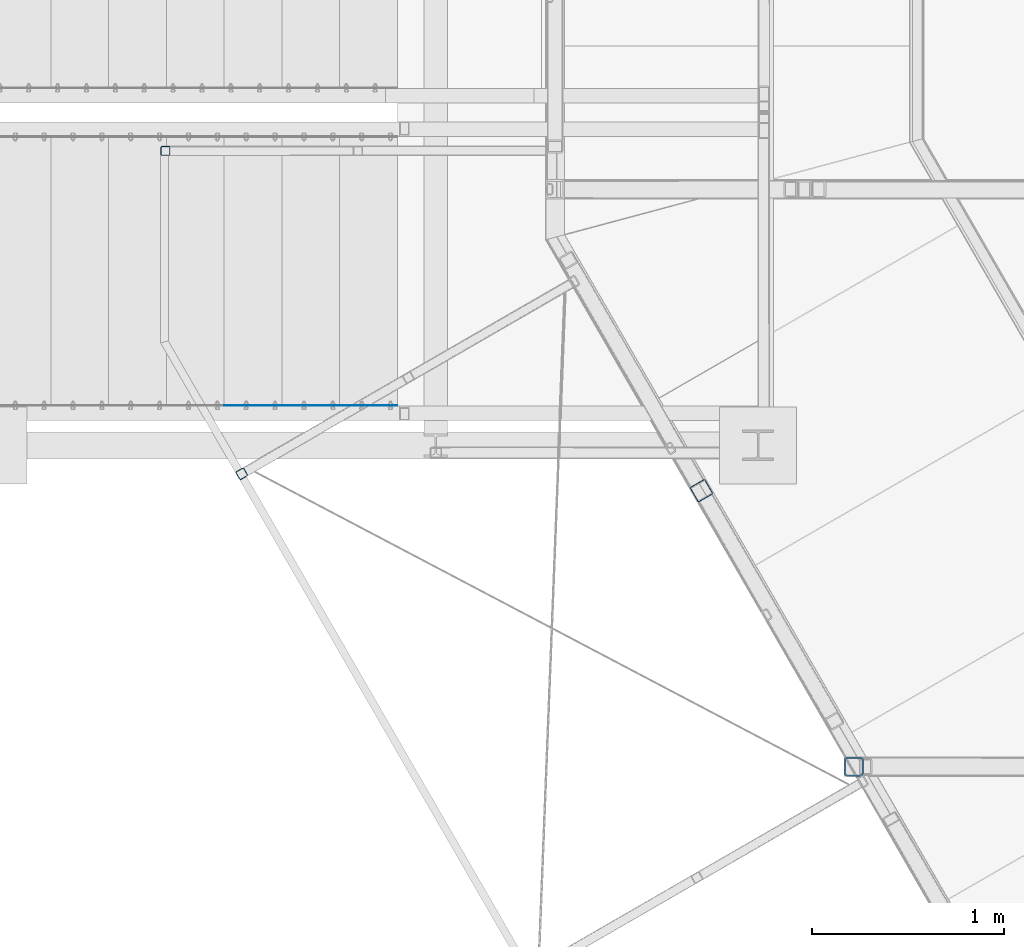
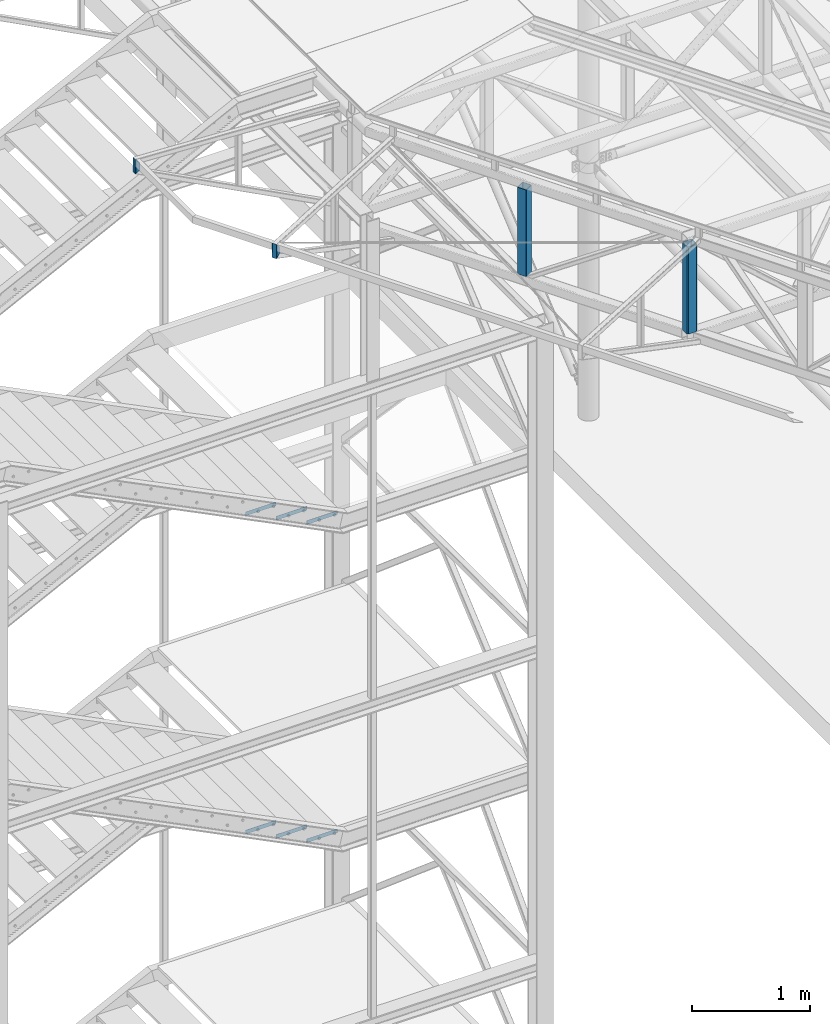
# One storey, part 66 of 132: 10 discrete accessories, 10 elements without a shape of their own.
"""IFC2X3 building model written with IfcOpenShell, lengths in millimetres."""

from ifc_helpers import new_model, si_unit, frame, origin_with_axes, origin_2d_with_axis, place, context, subcontext, project, spatial, rectangle, hollow_rectangle, extrude, clip, halfspace, material, type_object, element, aggregate, save


model = new_model("IFC2X3")

# Units and contexts
model_context = context("Model", 3, precision=1e-05, world=origin_with_axes())
body_context = subcontext(model_context, "Body", "Model", "MODEL_VIEW")
ifc_project = project(units=[si_unit("LENGTHUNIT", "METRE", prefix="MILLI"), si_unit("AREAUNIT", "SQUARE_METRE"), si_unit("VOLUMEUNIT", "CUBIC_METRE"), si_unit("MASSUNIT", "GRAM", prefix="KILO"), si_unit("TIMEUNIT", "SECOND"), si_unit("PLANEANGLEUNIT", "RADIAN"), si_unit("SOLIDANGLEUNIT", "STERADIAN"), si_unit("THERMODYNAMICTEMPERATUREUNIT", "DEGREE_CELSIUS"), si_unit("LUMINOUSINTENSITYUNIT", "LUMEN")], contexts=[model_context])

# Site, building, storey
site_placement = place(None, origin_with_axes())
site = spatial("IfcSite", under=ifc_project, at=site_placement, Name="Budowa", CompositionType="ELEMENT")
building_placement = place(site_placement, origin_with_axes())
building = spatial("IfcBuilding", under=site, at=building_placement, Name="Undefined", CompositionType="ELEMENT")
storey_placement = place(building_placement, origin_with_axes())
storey = spatial("IfcBuildingStorey", under=building, at=storey_placement, Name="Undefined", CompositionType="ELEMENT", Elevation=0.0)

# Assembly, discrete accessory
assembly_1_placement = place(storey_placement, origin_with_axes())
assembly_1 = element("IfcElementAssembly", 1, at=assembly_1_placement, inside=storey, Name="Steel Assembly", AssemblyPlace="NOTDEFINED", PredefinedType="RIGID_FRAME")
ifc_material_1 = material(Name="STEEL/S235")
discrete_accessory_type_1 = type_object("IfcDiscreteAccessoryType", Name="BEAM")
discrete_accessory_1_placement = place(assembly_1_placement, frame((-2025.0003815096, 9200.00000004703, 13979.9998397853), z_axis=(0.0, 1.0, 0.0), x_axis=(0.0, 0.0, -1.0)))
discrete_accessory_1 = element("IfcDiscreteAccessory", 2, at=discrete_accessory_1_placement, type_object=discrete_accessory_type_1, material=ifc_material_1, Name="BEAM", ObjectType="SHS50*4", context=body_context, shape_type="Clipping", body=[
    clip(clip(extrude(hollow_rectangle(XDim=50.0, YDim=50.0, WallThickness=4.0, InnerFilletRadius=4.0, OuterFilletRadius=8.0, at=origin_2d_with_axis()), frame((176.695154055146, 0.0, 0.0), z_axis=(-1.0, 0.0, 0.0), x_axis=(0.0, -1.0, 0.0)), (0.0, 0.0, 1.0), 192.23), halfspace(frame((149.999998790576, 25.0, 0.0), z_axis=(0.855808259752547, -0.517293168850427, 0.0), x_axis=(0.0, 0.0, -1.0)), False)), halfspace(frame((-0.00517939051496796, 25.0, 0.0), z_axis=(-0.689225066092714, -0.724547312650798, 2.88487317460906e-10), x_axis=(0.0, 0.0, 1.0)), False)),
])
aggregate(assembly_1, [discrete_accessory_1])

assembly_2_placement = place(storey_placement, origin_with_axes())
assembly_2 = element("IfcElementAssembly", 3, at=assembly_2_placement, inside=storey, Name="Steel Assembly", AssemblyPlace="NOTDEFINED", PredefinedType="RIGID_FRAME")
discrete_accessory_2_placement = place(assembly_2_placement, frame((-1628.50369069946, 7521.87907376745, 13979.9998397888), z_axis=(0.499969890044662, -0.866042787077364, 0.0), x_axis=(0.0, 0.0, -1.0)))
discrete_accessory_2 = element("IfcDiscreteAccessory", 4, at=discrete_accessory_2_placement, type_object=discrete_accessory_type_1, material=ifc_material_1, Name="BEAM", ObjectType="SHS50*4", context=body_context, shape_type="Clipping", body=[
    clip(clip(extrude(hollow_rectangle(XDim=50.0, YDim=50.0, WallThickness=4.0, InnerFilletRadius=4.0, OuterFilletRadius=8.0, at=origin_2d_with_axis()), frame((176.695154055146, 0.0, 0.0), z_axis=(-1.0, 0.0, 0.0), x_axis=(0.0, -1.0, 0.0)), (0.0, 0.0, 1.0), 192.23), halfspace(frame((149.999998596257, -25.0000000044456, 4.06544131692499e-09), z_axis=(0.855808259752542, 0.517293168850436, 0.0), x_axis=(0.0, 0.0, 1.0)), False)), halfspace(frame((-0.00517941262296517, -25.0000000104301, 1.04982973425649e-08), z_axis=(-0.689225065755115, 0.724547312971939, 0.0), x_axis=(0.0, 0.0, -1.0)), False)),
])
aggregate(assembly_2, [discrete_accessory_2])

assembly_3_placement = place(storey_placement, origin_with_axes())
assembly_3 = element("IfcElementAssembly", 5, at=assembly_3_placement, inside=storey, Name="Steel Assembly", AssemblyPlace="NOTDEFINED", PredefinedType="RIGID_FRAME")
discrete_accessory_3_placement = place(assembly_3_placement, frame((760.301211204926, 7434.23488026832, 12880.0), z_axis=(0.0, 0.0, 1.0), x_axis=(-0.500000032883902, 0.866025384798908, 0.0)))
discrete_accessory_3 = element("IfcDiscreteAccessory", 6, at=discrete_accessory_3_placement, type_object=discrete_accessory_type_1, material=ifc_material_1, Name="BEAM", ObjectType="SHS90*4", context=body_context, shape_type="Clipping", body=[
    clip(clip(extrude(hollow_rectangle(XDim=90.0, YDim=90.0, WallThickness=4.0, InnerFilletRadius=4.0, OuterFilletRadius=8.0, at=origin_2d_with_axis()), frame((0.0, 0.0, 900.0), z_axis=(0.0, 0.0, -1.0), x_axis=(0.0, 1.0, 0.0)), (0.0, 0.0, 1.0), 900.0), halfspace(frame((1000.0, 0.0, 900.0), z_axis=(0.0, 0.0, -1.0), x_axis=(0.0, 1.0, 0.0)), True)), halfspace(frame((1000.0, 0.0, 0.0), z_axis=(0.0, 0.0, 1.0), x_axis=(0.0, -1.0, 0.0)), True)),
])
aggregate(assembly_3, [discrete_accessory_3])

assembly_4_placement = place(storey_placement, origin_with_axes())
assembly_4 = element("IfcElementAssembly", 7, at=assembly_4_placement, inside=storey, Name="Steel Assembly", AssemblyPlace="NOTDEFINED", PredefinedType="RIGID_FRAME")
discrete_accessory_4_placement = place(assembly_4_placement, frame((1552.09999980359, 6000.00000004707, 13780.0), z_axis=(1.0, 0.0, 0.0), x_axis=(0.0, 0.0, -1.0)))
discrete_accessory_4 = element("IfcDiscreteAccessory", 8, at=discrete_accessory_4_placement, type_object=discrete_accessory_type_1, material=ifc_material_1, Name="BEAM", ObjectType="SHS100*8", context=body_context, shape_type="Clipping", body=[
    clip(clip(extrude(hollow_rectangle(XDim=100.0, YDim=100.0, WallThickness=8.0, InnerFilletRadius=8.0, OuterFilletRadius=16.0, at=origin_2d_with_axis()), frame((900.0, 0.0, 0.0), z_axis=(-1.0, 0.0, 0.0), x_axis=(0.0, -1.0, 0.0)), (0.0, 0.0, 1.0), 900.0), halfspace(frame((900.0, 0.0, 1000.0), z_axis=(-1.0, 0.0, 0.0), x_axis=(0.0, -1.0, 0.0)), True)), halfspace(frame((0.0, 0.0, 1000.0), z_axis=(1.0, 0.0, 0.0), x_axis=(0.0, 1.0, 0.0)), True)),
])
aggregate(assembly_4, [discrete_accessory_4])

assembly_5_placement = place(storey_placement, origin_with_axes())
assembly_5 = element("IfcElementAssembly", 9, at=assembly_5_placement, inside=storey, Name="Steel Assembly", AssemblyPlace="NOTDEFINED", PredefinedType="RIGID_FRAME")
ifc_material_2 = material(Name="STEEL/S235JR")
discrete_accessory_type_2 = type_object("IfcDiscreteAccessoryType", Name="ANGLE")
discrete_accessory_5_placement = place(assembly_5_placement, frame((-1420.00000007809, 7876.50000004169, 10980.0000000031), z_axis=(0.0, 1.0, 0.0), x_axis=(-1.0, 0.0, 0.0)))
discrete_accessory_5 = element("IfcDiscreteAccessory", 10, at=discrete_accessory_5_placement, type_object=discrete_accessory_type_2, material=ifc_material_2, Name="ANGLE", ObjectType="3*40", context=body_context, shape_type="SweptSolid", body=[
    extrude(rectangle(XDim=40.0, YDim=3.0, at=origin_2d_with_axis()), frame((300.0, 0.0, 0.0), z_axis=(-1.0, 0.0, 0.0), x_axis=(0.0, -1.0, 0.0)), (0.0, 0.0, 1.0), 300.0),
])
aggregate(assembly_5, [discrete_accessory_5])

assembly_6_placement = place(storey_placement, origin_with_axes())
assembly_6 = element("IfcElementAssembly", 11, at=assembly_6_placement, inside=storey, Name="Steel Assembly", AssemblyPlace="NOTDEFINED", PredefinedType="RIGID_FRAME")
discrete_accessory_6_placement = place(assembly_6_placement, frame((-1120.00000007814, 7876.50000004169, 10830.0000000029), z_axis=(0.0, 1.0, 0.0), x_axis=(-1.0, 0.0, 0.0)))
discrete_accessory_6 = element("IfcDiscreteAccessory", 12, at=discrete_accessory_6_placement, type_object=discrete_accessory_type_2, material=ifc_material_2, Name="ANGLE", ObjectType="3*40", context=body_context, shape_type="SweptSolid", body=[
    extrude(rectangle(XDim=40.0, YDim=3.0, at=origin_2d_with_axis()), frame((300.0, 0.0, 0.0), z_axis=(-1.0, 0.0, 0.0), x_axis=(0.0, -1.0, 0.0)), (0.0, 0.0, 1.0), 300.0),
])
aggregate(assembly_6, [discrete_accessory_6])

assembly_7_placement = place(storey_placement, origin_with_axes())
assembly_7 = element("IfcElementAssembly", 13, at=assembly_7_placement, inside=storey, Name="Steel Assembly", AssemblyPlace="NOTDEFINED", PredefinedType="RIGID_FRAME")
discrete_accessory_7_placement = place(assembly_7_placement, frame((-820.000000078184, 7876.50000004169, 10680.0000000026), z_axis=(0.0, 1.0, 0.0), x_axis=(-1.0, 0.0, 0.0)))
discrete_accessory_7 = element("IfcDiscreteAccessory", 14, at=discrete_accessory_7_placement, type_object=discrete_accessory_type_2, material=ifc_material_2, Name="ANGLE", ObjectType="3*40", context=body_context, shape_type="SweptSolid", body=[
    extrude(rectangle(XDim=40.0, YDim=3.0, at=origin_2d_with_axis()), frame((300.0, 0.0, 0.0), z_axis=(-1.0, 0.0, 0.0), x_axis=(0.0, -1.0, 0.0)), (0.0, 0.0, 1.0), 300.0),
])
aggregate(assembly_7, [discrete_accessory_7])

assembly_8_placement = place(storey_placement, origin_with_axes())
assembly_8 = element("IfcElementAssembly", 15, at=assembly_8_placement, inside=storey, Name="Steel Assembly", AssemblyPlace="NOTDEFINED", PredefinedType="RIGID_FRAME")
discrete_accessory_8_placement = place(assembly_8_placement, frame((-1420.00000007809, 7876.50000004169, 7680.00000000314), z_axis=(0.0, 1.0, 0.0), x_axis=(-1.0, 0.0, 0.0)))
discrete_accessory_8 = element("IfcDiscreteAccessory", 16, at=discrete_accessory_8_placement, type_object=discrete_accessory_type_2, material=ifc_material_2, Name="ANGLE", ObjectType="3*40", context=body_context, shape_type="SweptSolid", body=[
    extrude(rectangle(XDim=40.0, YDim=3.0, at=origin_2d_with_axis()), frame((300.0, 0.0, 0.0), z_axis=(-1.0, 0.0, 0.0), x_axis=(0.0, -1.0, 0.0)), (0.0, 0.0, 1.0), 300.0),
])
aggregate(assembly_8, [discrete_accessory_8])

assembly_9_placement = place(storey_placement, origin_with_axes())
assembly_9 = element("IfcElementAssembly", 17, at=assembly_9_placement, inside=storey, Name="Steel Assembly", AssemblyPlace="NOTDEFINED", PredefinedType="RIGID_FRAME")
discrete_accessory_9_placement = place(assembly_9_placement, frame((-1120.00000007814, 7876.50000004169, 7530.00000000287), z_axis=(0.0, 1.0, 0.0), x_axis=(-1.0, 0.0, 0.0)))
discrete_accessory_9 = element("IfcDiscreteAccessory", 18, at=discrete_accessory_9_placement, type_object=discrete_accessory_type_2, material=ifc_material_2, Name="ANGLE", ObjectType="3*40", context=body_context, shape_type="SweptSolid", body=[
    extrude(rectangle(XDim=40.0, YDim=3.0, at=origin_2d_with_axis()), frame((300.0, 0.0, 0.0), z_axis=(-1.0, 0.0, 0.0), x_axis=(0.0, -1.0, 0.0)), (0.0, 0.0, 1.0), 300.0),
])
aggregate(assembly_9, [discrete_accessory_9])

assembly_10_placement = place(storey_placement, origin_with_axes())
assembly_10 = element("IfcElementAssembly", 19, at=assembly_10_placement, inside=storey, Name="Steel Assembly", AssemblyPlace="NOTDEFINED", PredefinedType="RIGID_FRAME")
discrete_accessory_10_placement = place(assembly_10_placement, frame((-820.000000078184, 7876.50000004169, 7380.00000000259), z_axis=(0.0, 1.0, 0.0), x_axis=(-1.0, 0.0, 0.0)))
discrete_accessory_10 = element("IfcDiscreteAccessory", 20, at=discrete_accessory_10_placement, type_object=discrete_accessory_type_2, material=ifc_material_2, Name="ANGLE", ObjectType="3*40", context=body_context, shape_type="SweptSolid", body=[
    extrude(rectangle(XDim=40.0, YDim=3.0, at=origin_2d_with_axis()), frame((300.0, 0.0, 0.0), z_axis=(-1.0, 0.0, 0.0), x_axis=(0.0, -1.0, 0.0)), (0.0, 0.0, 1.0), 300.0),
])
aggregate(assembly_10, [discrete_accessory_10])

save(model, "model.ifc")
